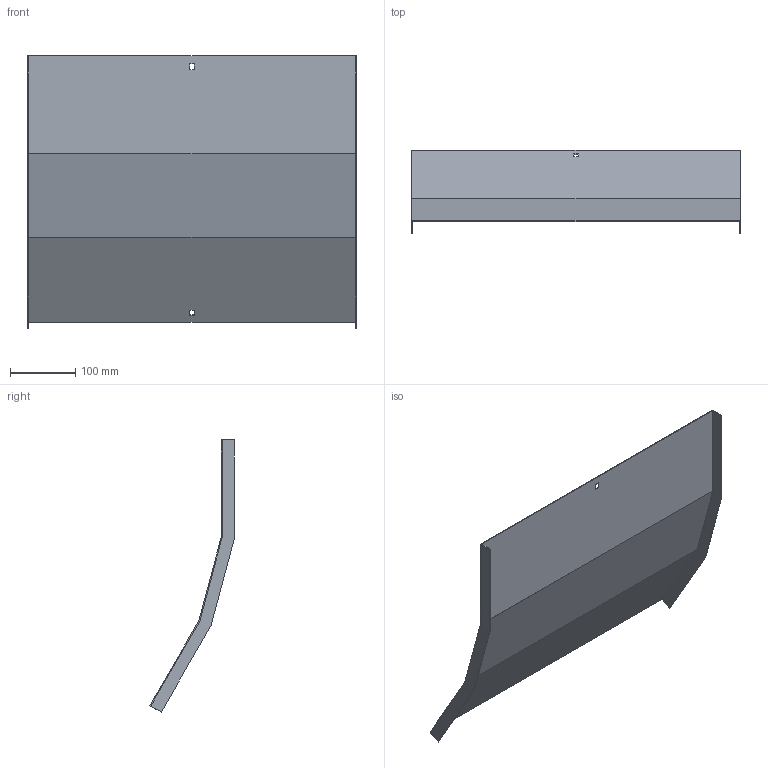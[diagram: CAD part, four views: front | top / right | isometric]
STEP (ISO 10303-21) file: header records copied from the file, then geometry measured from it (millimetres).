
FILE_DESCRIPTION (( 'STEP AP214' ), '1' );
FILE_NAME ('B2X32N5R500X.step', '2025-03-20T09:40:37', ( '' ), ( '' ), 'SwSTEP 2.0', 'SolidWorks 2023', '' );
FILE_SCHEMA (( 'AUTOMOTIVE_DESIGN' ));
Length unit declared in the file: millimetre
Products named in the file (1): B2X32N5R500X
Bounding box: 503 x 128.96 x 416.64 mm (x, y, z)
Volume: 349708.7 mm3; surface area: 469315.3 mm2
Topology: 1 solids, 1 shells, 26 faces, 72 edges, 48 vertices
Faces by surface type: plane 26
Entity records: 847 total; most frequent: CARTESIAN_POINT 147, ORIENTED_EDGE 144, DIRECTION 126, EDGE_CURVE 72, VECTOR 72, LINE 72, VERTEX_POINT 48, EDGE_LOOP 30
